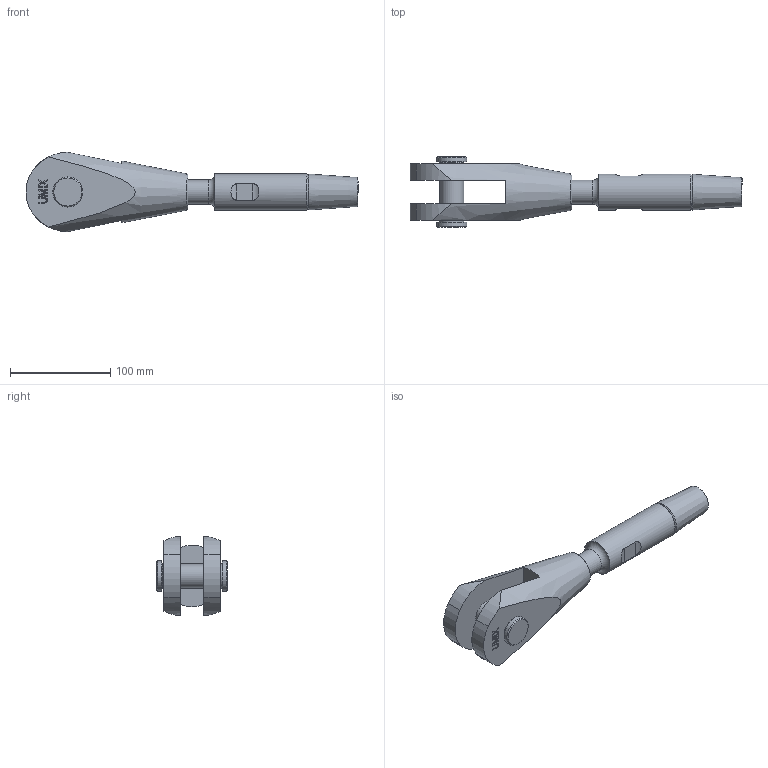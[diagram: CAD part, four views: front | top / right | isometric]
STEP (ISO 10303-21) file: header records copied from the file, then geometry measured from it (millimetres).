
FILE_DESCRIPTION(/* description */ (''),/* implementation_level */ '2;1');
FILE_NAME(/* name */ 'G:\Engineering\700 CAD\Internet-PX-1-step-igs-dxf\520-GAK-ADA-Arbeitsdateien\520-024-GAK-ADA.stp',/* time_stamp */ '2020-07-03T13:05:57+02:00',/* author */ ('schwarz'),/* organization */ (''),/* preprocessor_version */ 'ST-DEVELOPER v16.1',/* originating_system */ 'Autodesk Inventor 2016',/* authorisation */ '');
FILE_SCHEMA (('AUTOMOTIVE_DESIGN { 1 0 10303 214 3 1 1 }'));
Length unit declared in the file: centimetre
Products named in the file (1): 520-024-GAK-ADA-Kunde
Bounding box: 331.86 x 70.72 x 79.24 mm (x, y, z)
Volume: 459632.6 mm3; surface area: 73678.3 mm2
Topology: 2 solids, 3 shells, 197 faces, 505 edges, 335 vertices
Faces by surface type: plane 140, cylinder 22, bspline 21, cone 12, torus 2
Full cylindrical faces by diameter (mm): 4.917 x1, 6 x1, 6.8 x1, 12 x1, 24 x2, 25.5 x1, 26 x2, 30 x2, 36 x1
Entity records: 6146 total; most frequent: CARTESIAN_POINT 1405, ORIENTED_EDGE 942, DIRECTION 814, EDGE_CURVE 471, LINE 362, VECTOR 362, VERTEX_POINT 327, EDGE_LOOP 248
